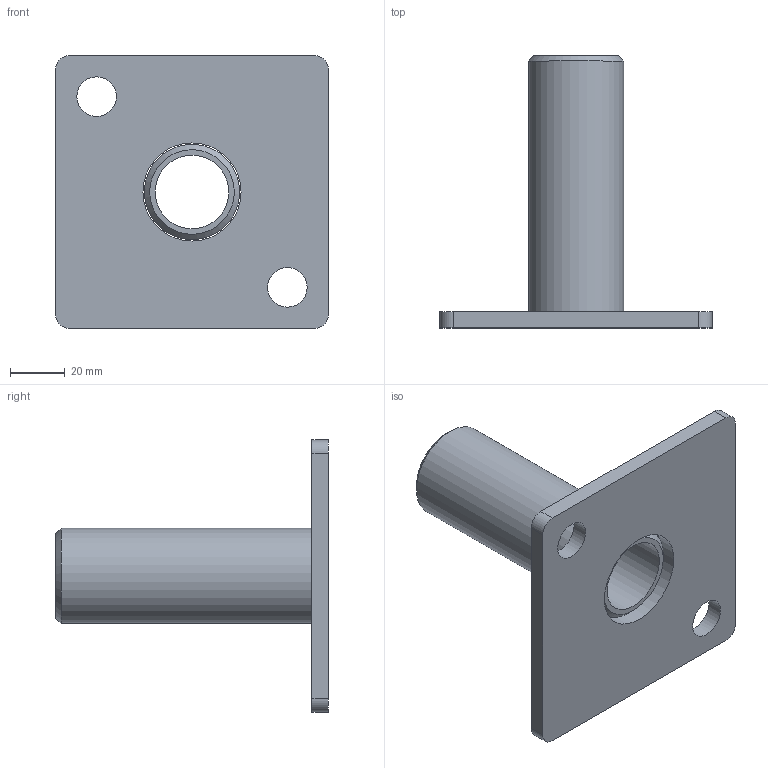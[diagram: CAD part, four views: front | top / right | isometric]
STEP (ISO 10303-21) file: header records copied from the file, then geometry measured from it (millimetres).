
FILE_DESCRIPTION((''),'2;1');
FILE_NAME('S:\Användarkataloger\AndreasA\Mina Inventor filer\Räcken\STEP\fäste_R3.stp','2010-09-07T13:58:26',('AndreasA'),(''),'Autodesk Inventor 2011','Autodesk Inventor 2011','');
FILE_SCHEMA(('AUTOMOTIVE_DESIGN { 1 0 10303 214 1 1 1 1 }'));
Length unit declared in the file: millimetre
Products named in the file (3): fäste_R3; bricka_r3; rör_fäste_r3_r4
Assembly tree (2 placements, depth 2):
  fäste_R3
    bricka_r3
    rör_fäste_r3_r4
Bounding box: 100 x 100 x 100 mm (x, y, z)
Volume: 89146.4 mm3; surface area: 40239.1 mm2
Topology: 2 solids, 2 shells, 19 faces, 46 edges, 31 vertices
Faces by surface type: cylinder 9, plane 8, cone 2
Full cylindrical faces by diameter (mm): 14.5 x2, 27 x1, 35 x1, 36 x1
Entity records: 604 total; most frequent: DIRECTION 104, CARTESIAN_POINT 88, ORIENTED_EDGE 72, AXIS2_PLACEMENT_3D 44, EDGE_CURVE 36, EDGE_LOOP 34, VERTEX_POINT 28, CIRCLE 20
